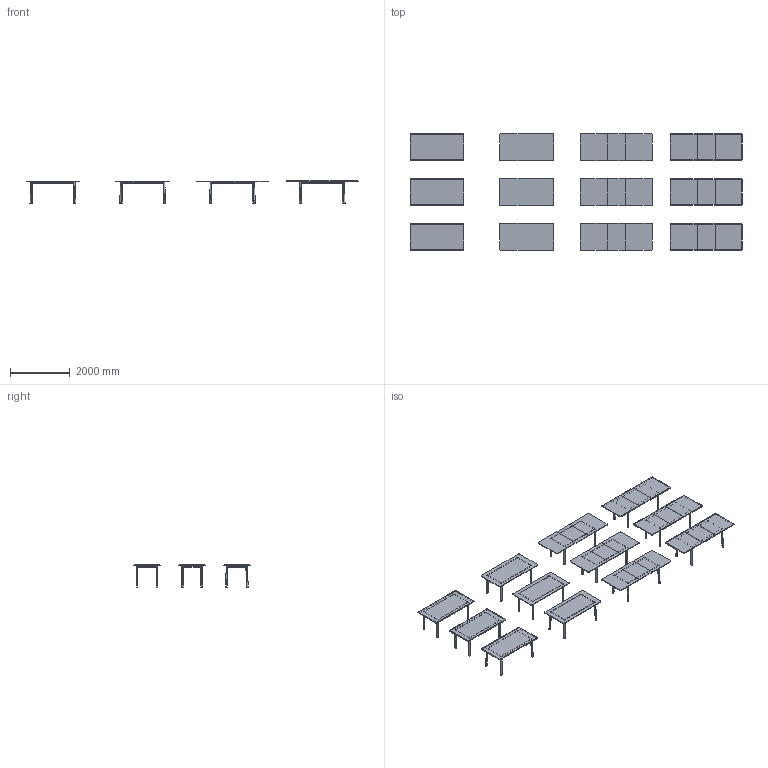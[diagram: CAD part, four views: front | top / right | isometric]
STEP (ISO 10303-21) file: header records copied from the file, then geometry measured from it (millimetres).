
FILE_DESCRIPTION(/* description */ (''),/* implementation_level */ '2;1');
FILE_NAME(/* name */ 'N8_180IZ_',/* time_stamp */ '2025-10-20T18:07:44+02:00',/* author */ (''),/* organization */ (''),/* preprocessor_version */ 'ST-DEVELOPER v16.5',/* originating_system */ 'Rhino 7.38',/* authorisation */ '');
FILE_SCHEMA (('AUTOMOTIVE_DESIGN_CC2'));
Products named in the file (1): Document
Bounding box: 11100 x 3900 x 736.03 mm (x, y, z)
Volume: 650449119.5 mm3; surface area: 60544952.6 mm2
Topology: 168 solids, 168 shells, 2244 faces, 5554 edges, 3622 vertices
Faces by surface type: bspline 2244
Entity records: 159574 total; most frequent: CARTESIAN_POINT 84573, B_SPLINE_CURVE_WITH_KNOTS 13138, ORIENTED_EDGE 10512, PCURVE 10512, DEFINITIONAL_REPRESENTATION 10512, SURFACE_CURVE 5256, EDGE_CURVE 5256, VERTEX_POINT 3348
